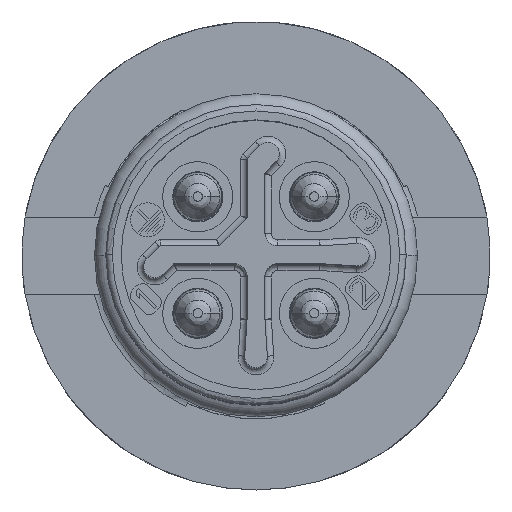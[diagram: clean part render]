
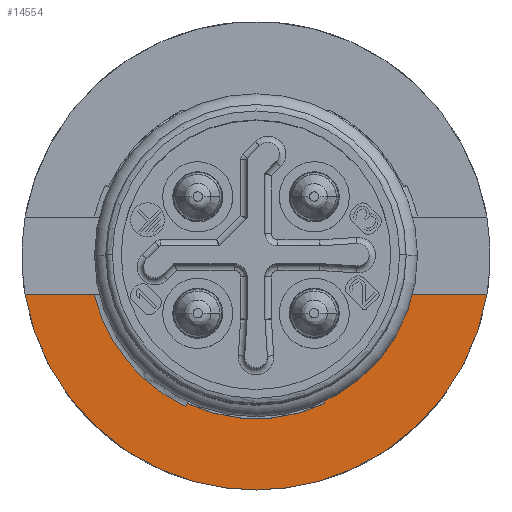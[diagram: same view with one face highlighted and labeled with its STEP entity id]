
A CAD part, top view. The second image highlights one B-rep face of the part: STEP entity #14554.
In plain terms, the highlighted planar face has unit normal (0, 0, 1).
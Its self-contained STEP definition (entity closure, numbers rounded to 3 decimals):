
#3314=CARTESIAN_POINT('',(8.914,8.695,-18.9));
#3315=DIRECTION('',(0.,0.,-1.));
#3316=DIRECTION('',(-0.423,-0.906,0.));
#3317=AXIS2_PLACEMENT_3D('',#3314,#3315,#3316);
#3363=DIRECTION('',(0.423,0.906,0.));
#3364=VECTOR('',#3363,0.1);
#3365=CARTESIAN_POINT('',(6.737,4.028,-18.9));
#3366=LINE('',#3365,#3364);
#3367=CARTESIAN_POINT('',(8.914,8.695,-18.9));
#3368=DIRECTION('',(0.,0.,1.));
#3369=DIRECTION('',(-0.423,-0.906,0.));
#3370=AXIS2_PLACEMENT_3D('',#3367,#3368,#3369);
#3372=DIRECTION('',(-0.423,0.906,0.));
#3373=VECTOR('',#3372,0.4);
#3374=CARTESIAN_POINT('',(11.048,4.119,-18.9));
#3375=LINE('',#3374,#3373);
#3376=CARTESIAN_POINT('',(8.914,8.695,-18.9));
#3377=DIRECTION('',(0.,0.,1.));
#3378=DIRECTION('',(0.423,-0.906,0.));
#3379=AXIS2_PLACEMENT_3D('',#3376,#3377,#3378);
#3381=DIRECTION('',(1.,0.,0.));
#3382=VECTOR('',#3381,2.658);
#3383=CARTESIAN_POINT('',(13.406,7.495,-18.9));
#3384=LINE('',#3383,#3382);
#3385=CARTESIAN_POINT('',(8.914,8.695,-18.9));
#3386=DIRECTION('',(0.,0.,-1.));
#3387=DIRECTION('',(0.986,-0.166,0.));
#3388=AXIS2_PLACEMENT_3D('',#3385,#3386,#3387);
#3390=CARTESIAN_POINT('',(8.914,8.695,-18.9));
#3391=DIRECTION('',(0.,0.,-1.));
#3392=DIRECTION('',(0.26,-0.966,0.));
#3393=AXIS2_PLACEMENT_3D('',#3390,#3391,#3392);
#3395=CARTESIAN_POINT('',(8.914,8.695,-18.9));
#3396=DIRECTION('',(0.,0.,-1.));
#3397=DIRECTION('',(-0.26,-0.966,0.));
#3398=AXIS2_PLACEMENT_3D('',#3395,#3396,#3397);
#3400=DIRECTION('',(1.,0.,0.));
#3401=VECTOR('',#3400,2.142);
#3402=CARTESIAN_POINT('',(1.764,7.495,-18.9));
#3403=LINE('',#3402,#3401);
#9071=CARTESIAN_POINT('',(16.064,7.495,-18.9));
#9072=CARTESIAN_POINT('',(10.801,1.695,-18.9));
#9073=VERTEX_POINT('',#9071);
#9074=VERTEX_POINT('',#9072);
#9075=CARTESIAN_POINT('',(7.026,1.695,-18.9));
#9076=VERTEX_POINT('',#9075);
#9077=CARTESIAN_POINT('',(1.764,7.495,-18.9));
#9078=VERTEX_POINT('',#9077);
#9079=CARTESIAN_POINT('',(11.048,4.119,-18.9));
#9080=CARTESIAN_POINT('',(10.879,4.481,-18.9));
#9081=VERTEX_POINT('',#9079);
#9082=VERTEX_POINT('',#9080);
#9083=CARTESIAN_POINT('',(13.406,7.495,-18.9));
#9084=VERTEX_POINT('',#9083);
#9121=CARTESIAN_POINT('',(6.779,4.119,-18.9));
#9122=VERTEX_POINT('',#9121);
#9123=CARTESIAN_POINT('',(6.737,4.028,-18.9));
#9124=VERTEX_POINT('',#9123);
#9125=CARTESIAN_POINT('',(3.905,7.495,-18.9));
#9126=VERTEX_POINT('',#9125);
#14533=CARTESIAN_POINT('',(8.914,8.695,-18.9));
#14534=DIRECTION('',(0.,0.,1.));
#14535=DIRECTION('',(1.,0.,0.));
#14536=AXIS2_PLACEMENT_3D('',#14533,#14534,#14535);
#14537=PLANE('',#14536);
#14538=ORIENTED_EDGE('',*,*,#14485,.F.);
#14540=ORIENTED_EDGE('',*,*,#14539,.T.);
#14542=ORIENTED_EDGE('',*,*,#14541,.T.);
#14543=ORIENTED_EDGE('',*,*,#14525,.T.);
#14544=ORIENTED_EDGE('',*,*,#13634,.T.);
#14546=ORIENTED_EDGE('',*,*,#14545,.T.);
#14547=ORIENTED_EDGE('',*,*,#14302,.T.);
#14549=ORIENTED_EDGE('',*,*,#14548,.T.);
#14550=ORIENTED_EDGE('',*,*,#14258,.T.);
#14551=ORIENTED_EDGE('',*,*,#14466,.T.);
#14552=EDGE_LOOP('',(#14538,#14540,#14542,#14543,#14544,#14546,#14547,#14549,
#14550,#14551));
#14553=FACE_OUTER_BOUND('',#14552,.F.);
#14554=ADVANCED_FACE('',(#14553),#14537,.T.);
#3318=CIRCLE('',#3317,5.15);
#3371=CIRCLE('',#3370,5.05);
#3380=CIRCLE('',#3379,4.65);
#3389=CIRCLE('',#3388,7.25);
#3394=CIRCLE('',#3393,7.25);
#3399=CIRCLE('',#3398,7.25);
#13634=EDGE_CURVE('',#9082,#9084,#3380,.T.);
#14258=EDGE_CURVE('',#9076,#9078,#3399,.T.);
#14302=EDGE_CURVE('',#9073,#9074,#3389,.T.);
#14466=EDGE_CURVE('',#9078,#9126,#3403,.T.);
#14485=EDGE_CURVE('',#9124,#9126,#3318,.T.);
#14525=EDGE_CURVE('',#9081,#9082,#3375,.T.);
#14539=EDGE_CURVE('',#9124,#9122,#3366,.T.);
#14541=EDGE_CURVE('',#9122,#9081,#3371,.T.);
#14545=EDGE_CURVE('',#9084,#9073,#3384,.T.);
#14548=EDGE_CURVE('',#9074,#9076,#3394,.T.);
